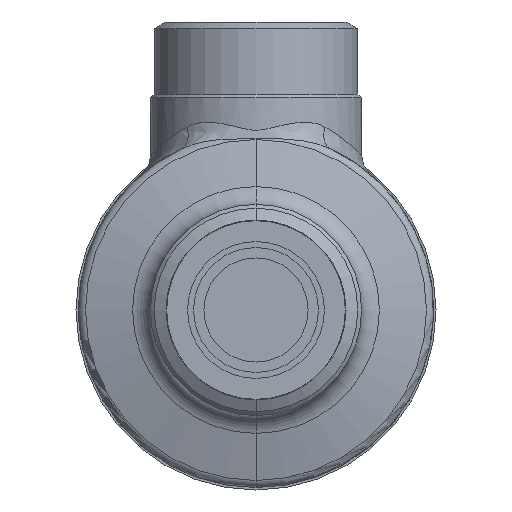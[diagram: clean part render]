
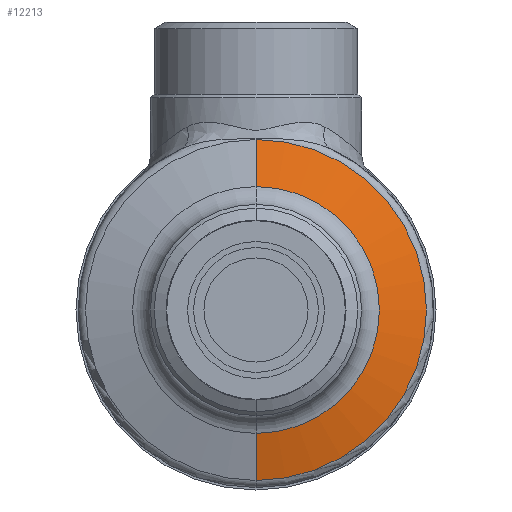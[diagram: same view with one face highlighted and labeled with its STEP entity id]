
A CAD part, front view. The second image highlights one B-rep face of the part: STEP entity #12213.
In plain terms, the highlighted conical face has half-angle 75 degrees and reference radius 37 mm.
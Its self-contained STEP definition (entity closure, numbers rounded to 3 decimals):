
#5060 = CARTESIAN_POINT ( 'NONE',  ( 0., -67.007, 25.706 ) ) ;
#5142 = CARTESIAN_POINT ( 'NONE',  ( 0., -64.378, 35.518 ) ) ;
#5266 = CIRCLE ( 'NONE', #5267, 35.518 ) ;
#5267 = AXIS2_PLACEMENT_3D ( 'NONE', #5268, #5269, #5270 ) ;
#5268 = CARTESIAN_POINT ( 'NONE',  ( 0., -64.378, 0. ) ) ;
#5269 = DIRECTION ( 'NONE',  ( 0., -1., 0. ) ) ;
#5270 = DIRECTION ( 'NONE',  ( 0., 0., -1. ) ) ;
#5843 = CARTESIAN_POINT ( 'NONE',  ( 0., -64.378, -35.518 ) ) ;
#6069 = LINE ( 'NONE', #6070, #6071 ) ;
#6070 = CARTESIAN_POINT ( 'NONE',  ( 0., -63.981, -37. ) ) ;
#6071 = VECTOR ( 'NONE', #6075, 1000. ) ;
#6075 = DIRECTION ( 'NONE',  ( 0., 0.259, -0.966 ) ) ;
#8272 = VERTEX_POINT ( 'NONE', #10571 ) ;
#8658 = EDGE_CURVE ( 'NONE', #9335, #9505, #10982, .T. ) ;
#9013 = ORIENTED_EDGE ( 'NONE', *, *, #8658, .F. ) ;
#9335 = VERTEX_POINT ( 'NONE', #5060 ) ;
#9505 = VERTEX_POINT ( 'NONE', #5142 ) ;
#9516 = CIRCLE ( 'NONE', #9517, 25.706 ) ;
#9517 = AXIS2_PLACEMENT_3D ( 'NONE', #9518, #9519, #9520 ) ;
#9518 = CARTESIAN_POINT ( 'NONE',  ( 0., -67.007, 0. ) ) ;
#9519 = DIRECTION ( 'NONE',  ( 0., 1., 0. ) ) ;
#9520 = DIRECTION ( 'NONE',  ( 0., 0., -1. ) ) ;
#9716 = EDGE_CURVE ( 'NONE', #10565, #9505, #5266, .T. ) ;
#10062 = ORIENTED_EDGE ( 'NONE', *, *, #9716, .T. ) ;
#10388 = FACE_OUTER_BOUND ( 'NONE', #12206, .T. ) ;
#10389 = CONICAL_SURFACE ( 'NONE', #10390, 37., 1.309 ) ;
#10390 = AXIS2_PLACEMENT_3D ( 'NONE', #10391, #10392, #10393 ) ;
#10391 = CARTESIAN_POINT ( 'NONE',  ( 0., -63.981, 0. ) ) ;
#10392 = DIRECTION ( 'NONE',  ( 0., 1., 0. ) ) ;
#10393 = DIRECTION ( 'NONE',  ( 0., 0., 1. ) ) ;
#10565 = VERTEX_POINT ( 'NONE', #5843 ) ;
#10571 = CARTESIAN_POINT ( 'NONE',  ( 0., -67.007, -25.706 ) ) ;
#10779 = EDGE_CURVE ( 'NONE', #8272, #10565, #6069, .T. ) ;
#10982 = LINE ( 'NONE', #10983, #10984 ) ;
#10983 = CARTESIAN_POINT ( 'NONE',  ( 0., -63.981, 37. ) ) ;
#10984 = VECTOR ( 'NONE', #10987, 1000. ) ;
#10987 = DIRECTION ( 'NONE',  ( 0., 0.259, 0.966 ) ) ;
#11128 = ORIENTED_EDGE ( 'NONE', *, *, #10779, .T. ) ;
#11690 = EDGE_CURVE ( 'NONE', #9335, #8272, #9516, .T. ) ;
#12042 = ORIENTED_EDGE ( 'NONE', *, *, #11690, .T. ) ;
#12206 = EDGE_LOOP ( 'NONE', ( #12042, #11128, #10062, #9013 ) ) ;
#12213 = ADVANCED_FACE ( 'NONE', ( #10388 ), #10389, .T. ) ;
